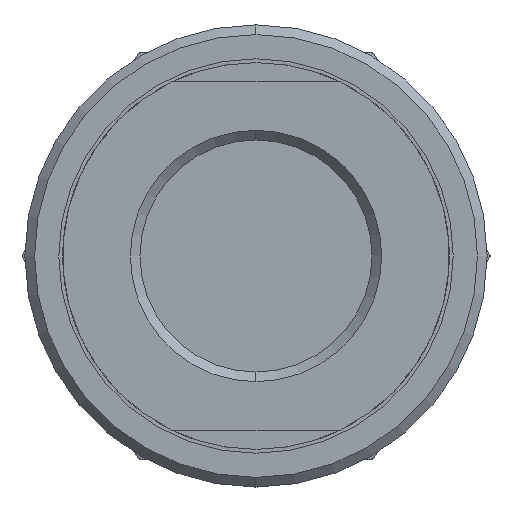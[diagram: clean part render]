
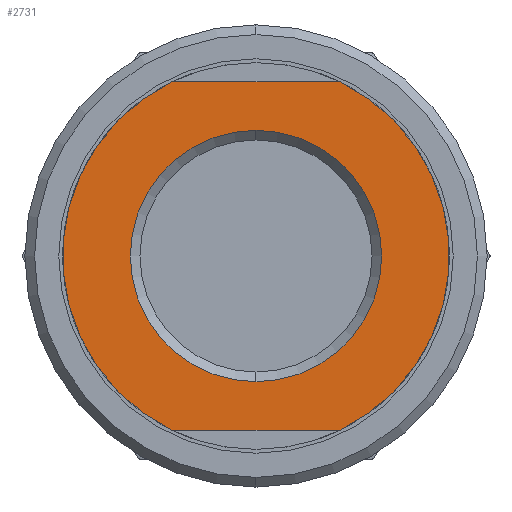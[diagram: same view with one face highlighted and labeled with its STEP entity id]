
A CAD part, left-side view. The second image highlights one B-rep face of the part: STEP entity #2731.
In plain terms, the highlighted planar face has unit normal (-1, 0, 0).
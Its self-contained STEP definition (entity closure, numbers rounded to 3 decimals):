
#127 = DIRECTION ( 'NONE',  ( 0., 1., 0. ) ) ;
#245 = VERTEX_POINT ( 'NONE', #5990 ) ;
#318 = VERTEX_POINT ( 'NONE', #2862 ) ;
#331 = FACE_BOUND ( 'NONE', #9254, .T. ) ;
#440 = AXIS2_PLACEMENT_3D ( 'NONE', #8251, #10825, #8220 ) ;
#843 = VECTOR ( 'NONE', #10447, 1000. ) ;
#862 = VECTOR ( 'NONE', #127, 1000. ) ;
#906 = CARTESIAN_POINT ( 'NONE',  ( -20.15, 0., 0. ) ) ;
#923 = CARTESIAN_POINT ( 'NONE',  ( -20.15, 0., 9. ) ) ;
#977 = AXIS2_PLACEMENT_3D ( 'NONE', #7068, #8786, #3692 ) ;
#1101 = EDGE_CURVE ( 'NONE', #245, #318, #7077, .T. ) ;
#1277 = DIRECTION ( 'NONE',  ( 0., 0., -1. ) ) ;
#1357 = PLANE ( 'NONE',  #6526 ) ;
#1595 = VERTEX_POINT ( 'NONE', #5194 ) ;
#2262 = DIRECTION ( 'NONE',  ( 1., 0., 0. ) ) ;
#2505 = ORIENTED_EDGE ( 'NONE', *, *, #2660, .T. ) ;
#2660 = EDGE_CURVE ( 'NONE', #4885, #1595, #6917, .T. ) ;
#2731 = ADVANCED_FACE ( 'NONE', ( #331, #6791 ), #1357, .F. ) ;
#2775 = DIRECTION ( 'NONE',  ( -1., 0., 0. ) ) ;
#2862 = CARTESIAN_POINT ( 'NONE',  ( -20.15, 4.359, 9. ) ) ;
#3269 = CARTESIAN_POINT ( 'NONE',  ( -20.15, 0., -9. ) ) ;
#3692 = DIRECTION ( 'NONE',  ( 0., 0., 1. ) ) ;
#3857 = ORIENTED_EDGE ( 'NONE', *, *, #9874, .F. ) ;
#4067 = ORIENTED_EDGE ( 'NONE', *, *, #9028, .T. ) ;
#4360 = CARTESIAN_POINT ( 'NONE',  ( -20.15, 0., -6.5 ) ) ;
#4885 = VERTEX_POINT ( 'NONE', #9233 ) ;
#5194 = CARTESIAN_POINT ( 'NONE',  ( -20.15, -4.359, -9. ) ) ;
#5325 = ORIENTED_EDGE ( 'NONE', *, *, #8191, .T. ) ;
#5366 = CIRCLE ( 'NONE', #10942, 10. ) ;
#5936 = DIRECTION ( 'NONE',  ( 0., 0., 1. ) ) ;
#5941 = AXIS2_PLACEMENT_3D ( 'NONE', #906, #10176, #5936 ) ;
#5990 = CARTESIAN_POINT ( 'NONE',  ( -20.15, -4.359, 9. ) ) ;
#6226 = CARTESIAN_POINT ( 'NONE',  ( -20.15, 0., 0. ) ) ;
#6526 = AXIS2_PLACEMENT_3D ( 'NONE', #8905, #2262, #1277 ) ;
#6791 = FACE_OUTER_BOUND ( 'NONE', #10471, .T. ) ;
#6917 = LINE ( 'NONE', #3269, #843 ) ;
#7068 = CARTESIAN_POINT ( 'NONE',  ( -20.15, 0., 0. ) ) ;
#7077 = LINE ( 'NONE', #923, #862 ) ;
#7083 = CIRCLE ( 'NONE', #5941, 6.5 ) ;
#7588 = VERTEX_POINT ( 'NONE', #4360 ) ;
#7821 = CARTESIAN_POINT ( 'NONE',  ( -20.15, 0., 6.5 ) ) ;
#7937 = VERTEX_POINT ( 'NONE', #7821 ) ;
#8191 = EDGE_CURVE ( 'NONE', #318, #4885, #10585, .T. ) ;
#8220 = DIRECTION ( 'NONE',  ( 0., 0., 1. ) ) ;
#8251 = CARTESIAN_POINT ( 'NONE',  ( -20.15, 0., 0. ) ) ;
#8779 = ORIENTED_EDGE ( 'NONE', *, *, #9014, .F. ) ;
#8786 = DIRECTION ( 'NONE',  ( -1., 0., 0. ) ) ;
#8905 = CARTESIAN_POINT ( 'NONE',  ( -20.15, 0., 0. ) ) ;
#9014 = EDGE_CURVE ( 'NONE', #7588, #7937, #7083, .T. ) ;
#9028 = EDGE_CURVE ( 'NONE', #1595, #245, #5366, .T. ) ;
#9233 = CARTESIAN_POINT ( 'NONE',  ( -20.15, 4.359, -9. ) ) ;
#9254 = EDGE_LOOP ( 'NONE', ( #3857, #8779 ) ) ;
#9474 = DIRECTION ( 'NONE',  ( 0., 0., 1. ) ) ;
#9874 = EDGE_CURVE ( 'NONE', #7937, #7588, #10543, .T. ) ;
#10176 = DIRECTION ( 'NONE',  ( -1., 0., 0. ) ) ;
#10447 = DIRECTION ( 'NONE',  ( 0., -1., 0. ) ) ;
#10471 = EDGE_LOOP ( 'NONE', ( #4067, #10491, #5325, #2505 ) ) ;
#10491 = ORIENTED_EDGE ( 'NONE', *, *, #1101, .T. ) ;
#10543 = CIRCLE ( 'NONE', #440, 6.5 ) ;
#10585 = CIRCLE ( 'NONE', #977, 10. ) ;
#10825 = DIRECTION ( 'NONE',  ( -1., 0., 0. ) ) ;
#10942 = AXIS2_PLACEMENT_3D ( 'NONE', #6226, #2775, #9474 ) ;
